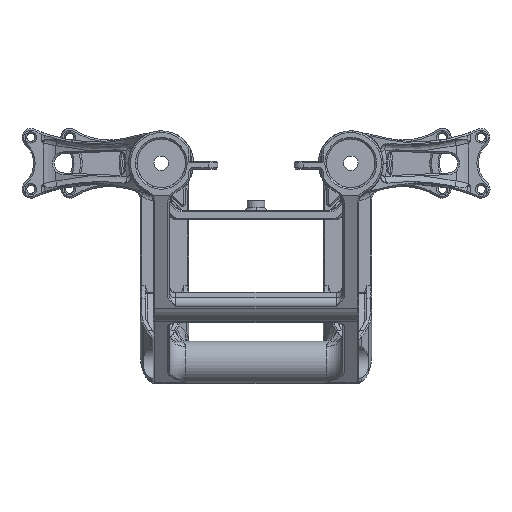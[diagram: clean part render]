
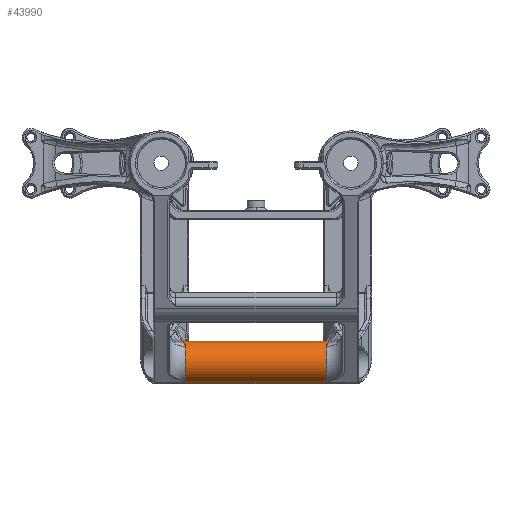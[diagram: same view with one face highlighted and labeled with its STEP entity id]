
A CAD part, front view. The second image highlights one B-rep face of the part: STEP entity #43990.
In plain terms, the highlighted cylindrical face has radius 6.5 mm (diameter 13 mm), a partial arc.
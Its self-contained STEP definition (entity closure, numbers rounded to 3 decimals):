
#451 = CARTESIAN_POINT ( 'NONE',  ( -23.442, -17.907, -55.067 ) ) ;
#1389 = VERTEX_POINT ( 'NONE', #60169 ) ;
#1609 = VECTOR ( 'NONE', #6362, 1000. ) ;
#3516 = CARTESIAN_POINT ( 'NONE',  ( -31.25, -18.911, -67.687 ) ) ;
#3727 = DIRECTION ( 'NONE',  ( 0., 0., -1. ) ) ;
#3732 = VECTOR ( 'NONE', #8191, 1000. ) ;
#3891 = CARTESIAN_POINT ( 'NONE',  ( 23.905, -17.25, -55.008 ) ) ;
#4955 = CARTESIAN_POINT ( 'NONE',  ( 22.744, -18.869, -55.29 ) ) ;
#5061 = VERTEX_POINT ( 'NONE', #3891 ) ;
#5193 = VERTEX_POINT ( 'NONE', #41974 ) ;
#5702 = CIRCLE ( 'NONE', #9125, 6.5 ) ;
#5844 = EDGE_CURVE ( 'NONE', #49101, #16986, #27763, .T. ) ;
#6250 = EDGE_CURVE ( 'NONE', #66158, #31503, #47962, .T. ) ;
#6362 = DIRECTION ( 'NONE',  ( -1., 0., 0. ) ) ;
#7307 = DIRECTION ( 'NONE',  ( 0., 0., -1. ) ) ;
#7461 = DIRECTION ( 'NONE',  ( 1., 0., 0. ) ) ;
#8191 = DIRECTION ( 'NONE',  ( 1., 0., 0. ) ) ;
#9047 = CIRCLE ( 'NONE', #17048, 6.5 ) ;
#9125 = AXIS2_PLACEMENT_3D ( 'NONE', #58916, #53457, #3727 ) ;
#9297 = FACE_OUTER_BOUND ( 'NONE', #49892, .T. ) ;
#11928 = CARTESIAN_POINT ( 'NONE',  ( -21.75, -20.97, -56.413 ) ) ;
#12117 = CARTESIAN_POINT ( 'NONE',  ( 24.028, -17.04, -55. ) ) ;
#12741 = CARTESIAN_POINT ( 'NONE',  ( -23.973, -17.149, -55.003 ) ) ;
#15348 = B_SPLINE_CURVE_WITH_KNOTS ( 'NONE', 3,
 ( #57068, #28506, #12117, #23369 ),
 .UNSPECIFIED., .F., .F.,
 ( 4, 4 ),
 ( 0., 0. ),
 .UNSPECIFIED. ) ;
#16986 = VERTEX_POINT ( 'NONE', #35872 ) ;
#17048 = AXIS2_PLACEMENT_3D ( 'NONE', #40276, #39214, #7307 ) ;
#17245 = CARTESIAN_POINT ( 'NONE',  ( -19.863, -16.919, -55. ) ) ;
#18327 = CIRCLE ( 'NONE', #42647, 6.5 ) ;
#18953 = VERTEX_POINT ( 'NONE', #37116 ) ;
#19051 = LINE ( 'NONE', #46647, #3732 ) ;
#19315 = ORIENTED_EDGE ( 'NONE', *, *, #69792, .F. ) ;
#20129 = DIRECTION ( 'NONE',  ( 1., 0., 0. ) ) ;
#20923 = CARTESIAN_POINT ( 'NONE',  ( 31.25, -16.919, -68. ) ) ;
#21775 = CARTESIAN_POINT ( 'NONE',  ( -21.86, -20.487, -56.064 ) ) ;
#22305 = CARTESIAN_POINT ( 'NONE',  ( 26.75, -18.911, -67.687 ) ) ;
#23369 = CARTESIAN_POINT ( 'NONE',  ( 24.049, -16.919, -55. ) ) ;
#25885 = EDGE_CURVE ( 'NONE', #1389, #5061, #52739, .T. ) ;
#25967 = CARTESIAN_POINT ( 'NONE',  ( 23.905, -17.25, -55.008 ) ) ;
#26163 = VERTEX_POINT ( 'NONE', #29072 ) ;
#26672 = EDGE_CURVE ( 'NONE', #26163, #62174, #68402, .T. ) ;
#27237 = EDGE_CURVE ( 'NONE', #5061, #5193, #15348, .T. ) ;
#27583 = CARTESIAN_POINT ( 'NONE',  ( -21.921, -20.321, -55.959 ) ) ;
#27763 = LINE ( 'NONE', #22305, #67555 ) ;
#28374 = CARTESIAN_POINT ( 'NONE',  ( 21.75, -16.919, -61.5 ) ) ;
#28506 = CARTESIAN_POINT ( 'NONE',  ( 23.973, -17.149, -55.003 ) ) ;
#28861 = DIRECTION ( 'NONE',  ( 1., 0., 0. ) ) ;
#29072 = CARTESIAN_POINT ( 'NONE',  ( -21.75, -18.911, -67.687 ) ) ;
#30962 = CARTESIAN_POINT ( 'NONE',  ( -23.905, -17.25, -55.008 ) ) ;
#31503 = VERTEX_POINT ( 'NONE', #63237 ) ;
#31512 = CARTESIAN_POINT ( 'NONE',  ( 21.75, -18.911, -67.687 ) ) ;
#31650 = ORIENTED_EDGE ( 'NONE', *, *, #5844, .F. ) ;
#32505 = CARTESIAN_POINT ( 'NONE',  ( 21.86, -20.487, -56.064 ) ) ;
#32717 = CARTESIAN_POINT ( 'NONE',  ( -21.775, -20.811, -56.291 ) ) ;
#33156 = EDGE_CURVE ( 'NONE', #26163, #63388, #9047, .T. ) ;
#33772 = CARTESIAN_POINT ( 'NONE',  ( -22.325, -19.513, -55.53 ) ) ;
#34026 = DIRECTION ( 'NONE',  ( 0., 0., -1. ) ) ;
#35705 = CARTESIAN_POINT ( 'NONE',  ( -26.75, -18.911, -67.687 ) ) ;
#35872 = CARTESIAN_POINT ( 'NONE',  ( 31.25, -18.911, -67.687 ) ) ;
#37116 = CARTESIAN_POINT ( 'NONE',  ( -31.25, -16.919, -68. ) ) ;
#37589 = ORIENTED_EDGE ( 'NONE', *, *, #51730, .T. ) ;
#38851 = DIRECTION ( 'NONE',  ( -1., 0., 0. ) ) ;
#39214 = DIRECTION ( 'NONE',  ( -1., 0., 0. ) ) ;
#40276 = CARTESIAN_POINT ( 'NONE',  ( -21.75, -16.919, -61.5 ) ) ;
#40737 = AXIS2_PLACEMENT_3D ( 'NONE', #44861, #49306, #34026 ) ;
#41974 = CARTESIAN_POINT ( 'NONE',  ( 24.049, -16.919, -55. ) ) ;
#42238 = CARTESIAN_POINT ( 'NONE',  ( 21.75, -21.126, -56.546 ) ) ;
#42246 = DIRECTION ( 'NONE',  ( 0., 0., 1. ) ) ;
#42647 = AXIS2_PLACEMENT_3D ( 'NONE', #28374, #38851, #66885 ) ;
#43990 = ADVANCED_FACE ( 'NONE', ( #9297 ), #69890, .T. ) ;
#44403 = EDGE_CURVE ( 'NONE', #18953, #63057, #19051, .T. ) ;
#44861 = CARTESIAN_POINT ( 'NONE',  ( 31.25, -16.919, -61.5 ) ) ;
#45454 = ORIENTED_EDGE ( 'NONE', *, *, #6250, .F. ) ;
#46401 = ORIENTED_EDGE ( 'NONE', *, *, #68319, .F. ) ;
#46647 = CARTESIAN_POINT ( 'NONE',  ( -19.863, -16.919, -68. ) ) ;
#47137 = B_SPLINE_CURVE_WITH_KNOTS ( 'NONE', 3,
 ( #65413, #11928, #32717, #21775, #27583, #55992, #33772, #50842, #50113, #451, #55269, #66815 ),
 .UNSPECIFIED., .F., .F.,
 ( 4, 2, 2, 2, 2, 4 ),
 ( 0., 0.001, 0.001, 0.002, 0.004, 0.005 ),
 .UNSPECIFIED. ) ;
#47721 = CARTESIAN_POINT ( 'NONE',  ( 22.137, -19.833, -55.678 ) ) ;
#47962 = B_SPLINE_CURVE_WITH_KNOTS ( 'NONE', 3,
 ( #52743, #12741, #52382, #69002 ),
 .UNSPECIFIED., .F., .F.,
 ( 4, 4 ),
 ( 0., 0. ),
 .UNSPECIFIED. ) ;
#48459 = CARTESIAN_POINT ( 'NONE',  ( 23.68, -17.586, -55.026 ) ) ;
#48817 = CARTESIAN_POINT ( 'NONE',  ( 21.75, -20.97, -56.413 ) ) ;
#49049 = ORIENTED_EDGE ( 'NONE', *, *, #59116, .F. ) ;
#49101 = VERTEX_POINT ( 'NONE', #31512 ) ;
#49306 = DIRECTION ( 'NONE',  ( 1., 0., 0. ) ) ;
#49892 = EDGE_LOOP ( 'NONE', ( #67564, #37589, #67653, #49049, #31650, #65469, #61220, #54800, #19315, #45454, #46401, #52615 ) ) ;
#50113 = CARTESIAN_POINT ( 'NONE',  ( -22.975, -18.548, -55.199 ) ) ;
#50842 = CARTESIAN_POINT ( 'NONE',  ( -22.744, -18.869, -55.29 ) ) ;
#51450 = CARTESIAN_POINT ( 'NONE',  ( -21.75, -21.126, -56.546 ) ) ;
#51730 = EDGE_CURVE ( 'NONE', #62174, #18953, #5702, .T. ) ;
#51882 = EDGE_CURVE ( 'NONE', #49101, #1389, #18327, .T. ) ;
#52382 = CARTESIAN_POINT ( 'NONE',  ( -24.028, -17.04, -55. ) ) ;
#52615 = ORIENTED_EDGE ( 'NONE', *, *, #33156, .F. ) ;
#52739 = B_SPLINE_CURVE_WITH_KNOTS ( 'NONE', 3,
 ( #42238, #48817, #69878, #32505, #70972, #47721, #64508, #4955, #65897, #65217, #48459, #25967 ),
 .UNSPECIFIED., .F., .F.,
 ( 4, 2, 2, 2, 2, 4 ),
 ( 0., 0.001, 0.001, 0.002, 0.004, 0.005 ),
 .UNSPECIFIED. ) ;
#52743 = CARTESIAN_POINT ( 'NONE',  ( -23.905, -17.25, -55.008 ) ) ;
#53457 = DIRECTION ( 'NONE',  ( 1., 0., 0. ) ) ;
#53643 = CIRCLE ( 'NONE', #40737, 6.5 ) ;
#54315 = VECTOR ( 'NONE', #7461, 1000. ) ;
#54800 = ORIENTED_EDGE ( 'NONE', *, *, #27237, .T. ) ;
#55269 = CARTESIAN_POINT ( 'NONE',  ( -23.68, -17.586, -55.026 ) ) ;
#55992 = CARTESIAN_POINT ( 'NONE',  ( -22.137, -19.833, -55.678 ) ) ;
#57068 = CARTESIAN_POINT ( 'NONE',  ( 23.905, -17.25, -55.008 ) ) ;
#58916 = CARTESIAN_POINT ( 'NONE',  ( -31.25, -16.919, -61.5 ) ) ;
#59116 = EDGE_CURVE ( 'NONE', #16986, #63057, #53643, .T. ) ;
#60169 = CARTESIAN_POINT ( 'NONE',  ( 21.75, -21.126, -56.546 ) ) ;
#61220 = ORIENTED_EDGE ( 'NONE', *, *, #25885, .T. ) ;
#62174 = VERTEX_POINT ( 'NONE', #3516 ) ;
#63057 = VERTEX_POINT ( 'NONE', #20923 ) ;
#63237 = CARTESIAN_POINT ( 'NONE',  ( -24.049, -16.919, -55. ) ) ;
#63388 = VERTEX_POINT ( 'NONE', #51450 ) ;
#64508 = CARTESIAN_POINT ( 'NONE',  ( 22.325, -19.513, -55.53 ) ) ;
#65217 = CARTESIAN_POINT ( 'NONE',  ( 23.442, -17.907, -55.067 ) ) ;
#65413 = CARTESIAN_POINT ( 'NONE',  ( -21.75, -21.126, -56.546 ) ) ;
#65469 = ORIENTED_EDGE ( 'NONE', *, *, #51882, .T. ) ;
#65897 = CARTESIAN_POINT ( 'NONE',  ( 22.975, -18.548, -55.199 ) ) ;
#66158 = VERTEX_POINT ( 'NONE', #30962 ) ;
#66815 = CARTESIAN_POINT ( 'NONE',  ( -23.905, -17.25, -55.008 ) ) ;
#66885 = DIRECTION ( 'NONE',  ( 0., 0., -1. ) ) ;
#67555 = VECTOR ( 'NONE', #28861, 1000. ) ;
#67564 = ORIENTED_EDGE ( 'NONE', *, *, #26672, .T. ) ;
#67653 = ORIENTED_EDGE ( 'NONE', *, *, #44403, .T. ) ;
#67721 = LINE ( 'NONE', #17245, #54315 ) ;
#68319 = EDGE_CURVE ( 'NONE', #63388, #66158, #47137, .T. ) ;
#68402 = LINE ( 'NONE', #35705, #1609 ) ;
#68531 = AXIS2_PLACEMENT_3D ( 'NONE', #70615, #20129, #42246 ) ;
#69002 = CARTESIAN_POINT ( 'NONE',  ( -24.049, -16.919, -55. ) ) ;
#69792 = EDGE_CURVE ( 'NONE', #31503, #5193, #67721, .T. ) ;
#69878 = CARTESIAN_POINT ( 'NONE',  ( 21.775, -20.811, -56.291 ) ) ;
#69890 = CYLINDRICAL_SURFACE ( 'NONE', #68531, 6.5 ) ;
#70615 = CARTESIAN_POINT ( 'NONE',  ( -19.863, -16.919, -61.5 ) ) ;
#70972 = CARTESIAN_POINT ( 'NONE',  ( 21.921, -20.321, -55.959 ) ) ;
